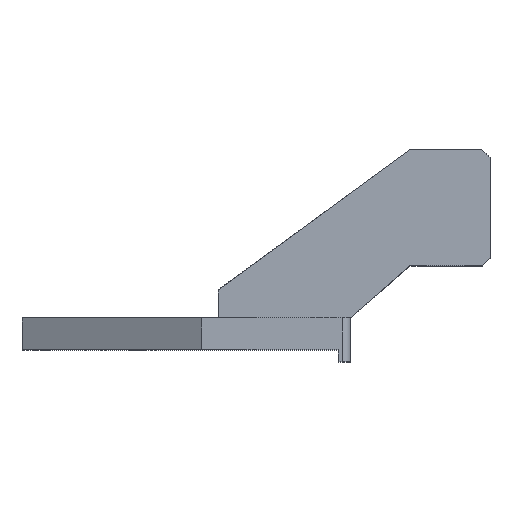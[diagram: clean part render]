
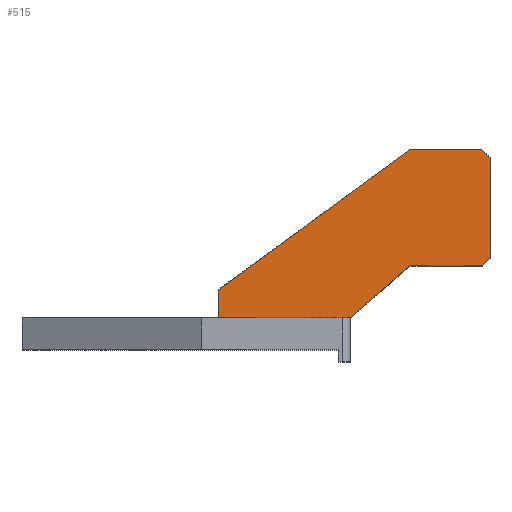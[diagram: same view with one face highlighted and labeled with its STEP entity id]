
A CAD part, top view. The second image highlights one B-rep face of the part: STEP entity #515.
In plain terms, the highlighted planar face has unit normal (0, 0, 1).
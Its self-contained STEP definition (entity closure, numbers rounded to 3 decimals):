
#5 = LINE ( 'NONE', #869, #1671 ) ;
#115 = CARTESIAN_POINT ( 'NONE',  ( 31.5, 50., 10. ) ) ;
#121 = CARTESIAN_POINT ( 'NONE',  ( -16.5, 50., 10. ) ) ;
#142 = VERTEX_POINT ( 'NONE', #2311 ) ;
#159 = LINE ( 'NONE', #759, #1689 ) ;
#165 = DIRECTION ( 'NONE',  ( 0.707, -0.707, 0. ) ) ;
#189 = PLANE ( 'NONE',  #1444 ) ;
#199 = VERTEX_POINT ( 'NONE', #2437 ) ;
#201 = VERTEX_POINT ( 'NONE', #2011 ) ;
#242 = VERTEX_POINT ( 'NONE', #325 ) ;
#251 = DIRECTION ( 'NONE',  ( 0., -1., 0. ) ) ;
#323 = EDGE_CURVE ( 'NONE', #1307, #2486, #2089, .T. ) ;
#325 = CARTESIAN_POINT ( 'NONE',  ( 49.5, 21., 10. ) ) ;
#331 = ORIENTED_EDGE ( 'NONE', *, *, #2083, .F. ) ;
#400 = DIRECTION ( 'NONE',  ( 0., -1., 0. ) ) ;
#515 = ADVANCED_FACE ( 'NONE', ( #660 ), #189, .F. ) ;
#612 = DIRECTION ( 'NONE',  ( 0., 1., 0. ) ) ;
#619 = LINE ( 'NONE', #2545, #2473 ) ;
#652 = VECTOR ( 'NONE', #2264, 1000. ) ;
#660 = FACE_OUTER_BOUND ( 'NONE', #2644, .T. ) ;
#688 = LINE ( 'NONE', #1976, #1332 ) ;
#724 = VERTEX_POINT ( 'NONE', #1535 ) ;
#737 = DIRECTION ( 'NONE',  ( 1., 0., 0. ) ) ;
#759 = CARTESIAN_POINT ( 'NONE',  ( 51.5, 23., 10. ) ) ;
#807 = DIRECTION ( 'NONE',  ( 0., 0., -1. ) ) ;
#817 = LINE ( 'NONE', #115, #652 ) ;
#832 = DIRECTION ( 'NONE',  ( -0.756, -0.655, 0. ) ) ;
#843 = CARTESIAN_POINT ( 'NONE',  ( -16.5, 50., 10. ) ) ;
#869 = CARTESIAN_POINT ( 'NONE',  ( -16.5, 50., 10. ) ) ;
#984 = VECTOR ( 'NONE', #832, 1000. ) ;
#988 = CARTESIAN_POINT ( 'NONE',  ( 51.5, 23., 10. ) ) ;
#1025 = VECTOR ( 'NONE', #165, 1000. ) ;
#1053 = ORIENTED_EDGE ( 'NONE', *, *, #2013, .T. ) ;
#1080 = DIRECTION ( 'NONE',  ( 1., 0., 0. ) ) ;
#1094 = EDGE_CURVE ( 'NONE', #724, #201, #2069, .T. ) ;
#1283 = EDGE_CURVE ( 'NONE', #199, #1307, #5, .T. ) ;
#1307 = VERTEX_POINT ( 'NONE', #2260 ) ;
#1332 = VECTOR ( 'NONE', #400, 1000. ) ;
#1403 = DIRECTION ( 'NONE',  ( -1., 0., 0. ) ) ;
#1438 = EDGE_CURVE ( 'NONE', #142, #1682, #688, .T. ) ;
#1443 = CARTESIAN_POINT ( 'NONE',  ( 31.5, 21., 10. ) ) ;
#1444 = AXIS2_PLACEMENT_3D ( 'NONE', #121, #807, #612 ) ;
#1535 = CARTESIAN_POINT ( 'NONE',  ( 31.5, 50., 10. ) ) ;
#1589 = LINE ( 'NONE', #2135, #1025 ) ;
#1596 = VECTOR ( 'NONE', #1080, 1000. ) ;
#1617 = ORIENTED_EDGE ( 'NONE', *, *, #1673, .F. ) ;
#1669 = CARTESIAN_POINT ( 'NONE',  ( 31.5, 21., 10. ) ) ;
#1671 = VECTOR ( 'NONE', #251, 1000. ) ;
#1673 = EDGE_CURVE ( 'NONE', #1969, #2486, #2659, .T. ) ;
#1682 = VERTEX_POINT ( 'NONE', #988 ) ;
#1689 = VECTOR ( 'NONE', #2477, 1000. ) ;
#1874 = EDGE_CURVE ( 'NONE', #1682, #242, #159, .T. ) ;
#1930 = ORIENTED_EDGE ( 'NONE', *, *, #2219, .F. ) ;
#1969 = VERTEX_POINT ( 'NONE', #1443 ) ;
#1976 = CARTESIAN_POINT ( 'NONE',  ( 51.5, 50., 10. ) ) ;
#2011 = CARTESIAN_POINT ( 'NONE',  ( 49.5, 50., 10. ) ) ;
#2013 = EDGE_CURVE ( 'NONE', #724, #199, #817, .T. ) ;
#2069 = LINE ( 'NONE', #843, #1596 ) ;
#2083 = EDGE_CURVE ( 'NONE', #242, #1969, #619, .T. ) ;
#2089 = LINE ( 'NONE', #2317, #2724 ) ;
#2135 = CARTESIAN_POINT ( 'NONE',  ( 49.5, 50., 10. ) ) ;
#2219 = EDGE_CURVE ( 'NONE', #201, #142, #1589, .T. ) ;
#2260 = CARTESIAN_POINT ( 'NONE',  ( -16.5, 8., 10. ) ) ;
#2264 = DIRECTION ( 'NONE',  ( -0.808, -0.589, 0. ) ) ;
#2311 = CARTESIAN_POINT ( 'NONE',  ( 51.5, 48., 10. ) ) ;
#2317 = CARTESIAN_POINT ( 'NONE',  ( -16.5, 8., 10. ) ) ;
#2344 = ORIENTED_EDGE ( 'NONE', *, *, #1874, .F. ) ;
#2387 = ORIENTED_EDGE ( 'NONE', *, *, #1438, .F. ) ;
#2437 = CARTESIAN_POINT ( 'NONE',  ( -16.5, 15., 10. ) ) ;
#2473 = VECTOR ( 'NONE', #1403, 1000. ) ;
#2477 = DIRECTION ( 'NONE',  ( -0.707, -0.707, 0. ) ) ;
#2486 = VERTEX_POINT ( 'NONE', #2578 ) ;
#2496 = ORIENTED_EDGE ( 'NONE', *, *, #1094, .F. ) ;
#2545 = CARTESIAN_POINT ( 'NONE',  ( 51.5, 21., 10. ) ) ;
#2578 = CARTESIAN_POINT ( 'NONE',  ( 16.5, 8., 10. ) ) ;
#2583 = ORIENTED_EDGE ( 'NONE', *, *, #323, .T. ) ;
#2644 = EDGE_LOOP ( 'NONE', ( #2387, #1930, #2496, #1053, #2756, #2583, #1617, #331, #2344 ) ) ;
#2659 = LINE ( 'NONE', #1669, #984 ) ;
#2724 = VECTOR ( 'NONE', #737, 1000. ) ;
#2756 = ORIENTED_EDGE ( 'NONE', *, *, #1283, .T. ) ;
